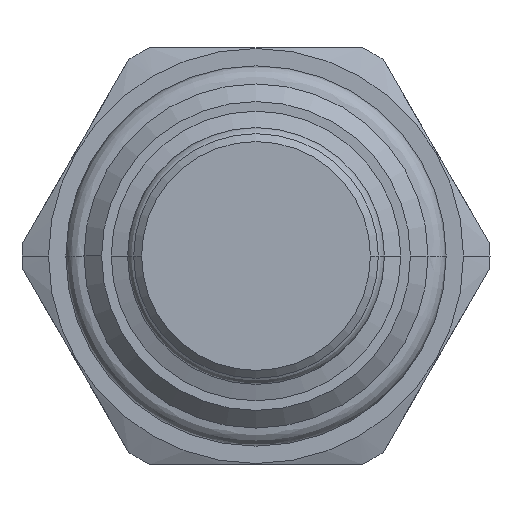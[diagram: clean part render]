
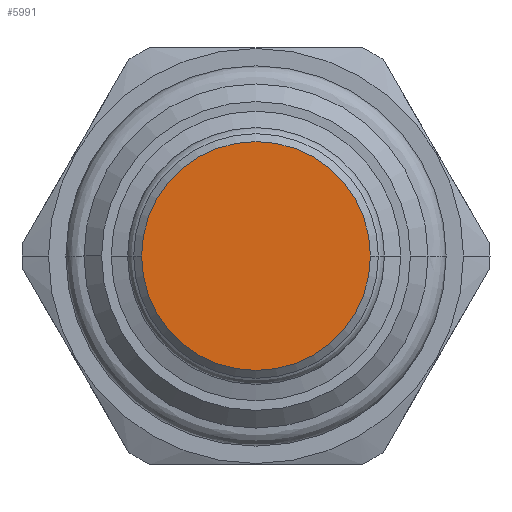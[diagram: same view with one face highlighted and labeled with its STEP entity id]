
A CAD part, front view. The second image highlights one B-rep face of the part: STEP entity #5991.
In plain terms, the highlighted planar face has unit normal (0, -1, 0).
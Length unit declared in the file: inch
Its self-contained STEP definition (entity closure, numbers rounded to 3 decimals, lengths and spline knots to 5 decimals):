
#2330=CARTESIAN_POINT('',(0.,-0.738,0.));
#2331=DIRECTION('',(0.,-1.,0.));
#2332=DIRECTION('',(-1.,0.,0.));
#2333=AXIS2_PLACEMENT_3D('',#2330,#2331,#2332);
#2335=CARTESIAN_POINT('',(0.,-0.738,0.));
#2336=DIRECTION('',(0.,-1.,0.));
#2337=DIRECTION('',(1.,0.,0.));
#2338=AXIS2_PLACEMENT_3D('',#2335,#2336,#2337);
#3741=CARTESIAN_POINT('',(-0.291,-0.738,0.));
#3742=CARTESIAN_POINT('',(0.291,-0.738,0.));
#3743=VERTEX_POINT('',#3741);
#3744=VERTEX_POINT('',#3742);
#5981=CARTESIAN_POINT('',(0.,-0.738,0.));
#5982=DIRECTION('',(0.,1.,0.));
#5983=DIRECTION('',(1.,0.,0.));
#5984=AXIS2_PLACEMENT_3D('',#5981,#5982,#5983);
#5985=PLANE('',#5984);
#5987=ORIENTED_EDGE('',*,*,#5986,.F.);
#5988=ORIENTED_EDGE('',*,*,#5971,.F.);
#5989=EDGE_LOOP('',(#5987,#5988));
#5990=FACE_OUTER_BOUND('',#5989,.F.);
#5991=ADVANCED_FACE('',(#5990),#5985,.F.);
#2334=CIRCLE('',#2333,0.291);
#2339=CIRCLE('',#2338,0.291);
#5971=EDGE_CURVE('',#3744,#3743,#2339,.T.);
#5986=EDGE_CURVE('',#3743,#3744,#2334,.T.);
